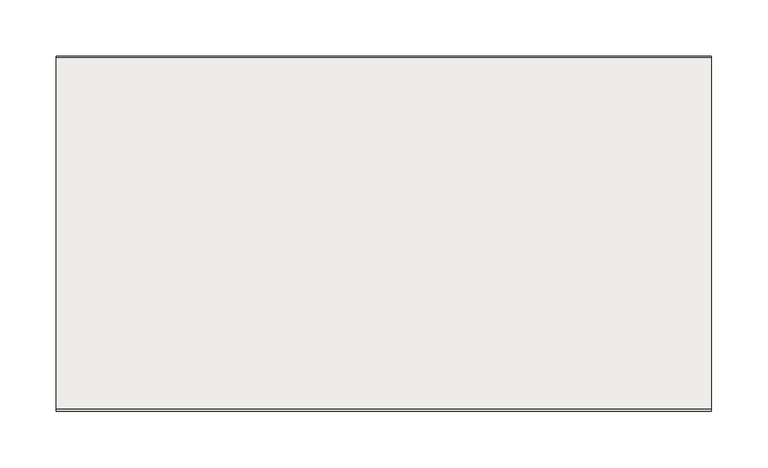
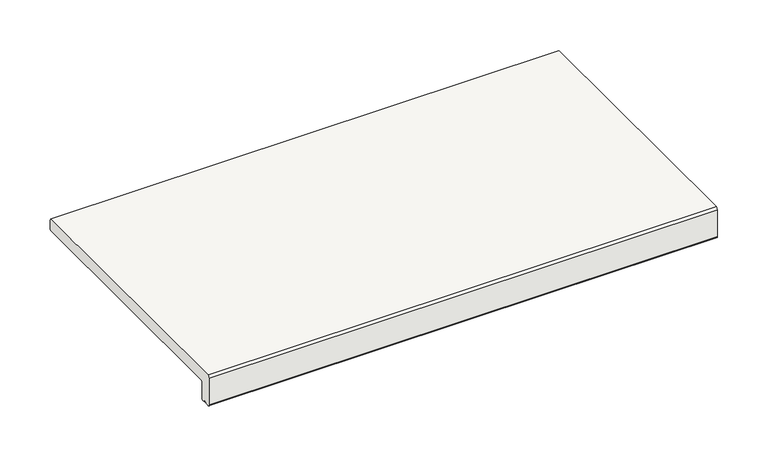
"""IFC4 building model written with IfcOpenShell, lengths in millimetres: slab geometry, ROSA GRES_L62 : Pieza L62_Mistery_Grey_Anti-Slip."""

import ifcopenshell
import ifcopenshell.guid

model = None  # the IFC model being written
_history = None  # IfcOwnerHistory: only IFC2X3 demands one
_inside = {}  # id of a spatial element -> (the spatial element, [elements in it])
_under = {}  # id of a project, library or spatial element -> (it, [spatial elements below it])
_declared = {}  # id of a project -> (the project, [libraries it declares])
_typed = {}  # id of a type object -> (the type object, [elements of that type])
_made_of = {}  # id of a material, layer set ... -> (it, [elements and type objects made of it])


def new_model(schema):
    """Start an empty IFC model of exactly this schema.

    Asked for "IFC4X3", IfcOpenShell would pick the latest addendum, in which some entities
    have other attributes; the version numbers below select the first issue.
    IFC2X3 requires an IfcOwnerHistory on every rooted entity: one is made here for all.
    """
    global model, _history
    if schema == "IFC4X3":
        model = ifcopenshell.file(schema_version=(4, 3, 0, 0))
    else:
        model = ifcopenshell.file(schema=schema)
    _inside.clear()
    _under.clear()
    _declared.clear()
    _typed.clear()
    _made_of.clear()
    _history = None
    if model.schema == "IFC2X3":
        org = make("IfcOrganization", Name="unknown")
        user = make(
            "IfcPersonAndOrganization",
            ThePerson=make("IfcPerson", FamilyName="unknown"),
            TheOrganization=org,
        )
        app = make(
            "IfcApplication",
            ApplicationDeveloper=org,
            Version="unknown",
            ApplicationFullName="unknown",
            ApplicationIdentifier="unknown",
        )
        _history = make(
            "IfcOwnerHistory",
            OwningUser=user,
            OwningApplication=app,
            ChangeAction="ADDED",
            CreationDate=0,
        )
    return model


def make(cls, **values):
    """One entity of the class cls with the attributes given. An attribute that is None is left unset."""
    return model.create_entity(
        cls, **{name: value for name, value in values.items() if value is not None}
    )


def rooted(cls, **values):
    """An entity with a GlobalId (a new one), such as an element, a storey or a relation."""
    return make(cls, GlobalId=ifcopenshell.guid.new(), OwnerHistory=_history, **values)


def si_unit(unit_type, name, prefix=None):
    """IfcSIUnit, for example si_unit("LENGTHUNIT", "METRE", prefix="MILLI")."""
    return make("IfcSIUnit", UnitType=unit_type, Prefix=prefix, Name=name)


def assignment(units):
    """IfcUnitAssignment: the units of a project."""
    return None if units is None else make("IfcUnitAssignment", Units=units)


def point(xyz):
    """IfcCartesianPoint."""
    return None if xyz is None else make("IfcCartesianPoint", Coordinates=xyz)


def direction(xyz):
    """IfcDirection."""
    return None if xyz is None else make("IfcDirection", DirectionRatios=xyz)


def frame(location, z_axis=None, x_axis=None):
    """IfcAxis2Placement3D, a coordinate frame: its origin and axes. An axis left out is left unset."""
    return make(
        "IfcAxis2Placement3D",
        Location=point(location),
        Axis=direction(z_axis),
        RefDirection=direction(x_axis),
    )


def frame_2d(location, x_axis=None):
    """IfcAxis2Placement2D, a coordinate frame in the plane: its origin and x axis."""
    return make(
        "IfcAxis2Placement2D", Location=point(location), RefDirection=direction(x_axis)
    )


def origin():
    """The frame at (0, 0, 0) with its axes left unset."""
    return frame((0.0, 0.0, 0.0))


def place(relative_to, where):
    """IfcLocalPlacement: puts the frame where relative to a parent placement (None: the world)."""
    return make(
        "IfcLocalPlacement", PlacementRelTo=relative_to, RelativePlacement=where
    )


def context(
    kind, dimensions, precision=None, world=None, true_north=None, identifier=None
):
    """IfcGeometricRepresentationContext, for example the 3D "Model" context."""
    return make(
        "IfcGeometricRepresentationContext",
        ContextIdentifier=identifier,
        ContextType=kind,
        CoordinateSpaceDimension=dimensions,
        Precision=precision,
        WorldCoordinateSystem=world,
        TrueNorth=true_north,
    )


def project(units=None, contexts=None):
    """IfcProject with its units and contexts."""
    return rooted(
        "IfcProject",
        Name="project",
        RepresentationContexts=contexts,
        UnitsInContext=assignment(units),
    )


def spatial(cls, under=None, at=None, **own):
    """A site, building, storey or space (cls), placed at a placement, below another one or the project."""
    s = rooted(cls, ObjectPlacement=at, **own)
    if under is not None:
        _under.setdefault(under.id(), (under, []))[1].append(s)
    return s


def polyline(points):
    """IfcPolyline through the points."""
    return make("IfcPolyline", Points=[point(p) for p in points])


def circle_curve(where, radius):
    """IfcCircle in the frame where."""
    return make("IfcCircle", Position=where, Radius=radius)


def trimmed(basis, trim1, trim2, sense, master):
    """IfcTrimmedCurve: the piece of a basis curve between two trims."""
    return make(
        "IfcTrimmedCurve",
        BasisCurve=basis,
        Trim1=trim1,
        Trim2=trim2,
        SenseAgreement=sense,
        MasterRepresentation=master,
    )


def segment(curve, same_sense, transition):
    """IfcCompositeCurveSegment."""
    return make(
        "IfcCompositeCurveSegment",
        Transition=transition,
        SameSense=same_sense,
        ParentCurve=curve,
    )


def composite_curve(segments, self_intersect=None):
    """IfcCompositeCurve: segments joined end to end."""
    return make("IfcCompositeCurve", Segments=segments, SelfIntersect=self_intersect)


def outline(outer, holes=None, kind="AREA"):
    """IfcArbitraryClosedProfileDef: a profile drawn as a closed curve; with holes, ...WithVoids."""
    if holes is None:
        return make("IfcArbitraryClosedProfileDef", ProfileType=kind, OuterCurve=outer)
    return make(
        "IfcArbitraryProfileDefWithVoids",
        ProfileType=kind,
        OuterCurve=outer,
        InnerCurves=holes,
    )


def extrude(swept, where, along, depth):
    """IfcExtrudedAreaSolid: the profile swept, set in the frame where, extruded along a direction by depth."""
    return make(
        "IfcExtrudedAreaSolid",
        SweptArea=swept,
        Position=where,
        ExtrudedDirection=direction(along),
        Depth=depth,
    )


def shape(context_of_items, identifier, shape_type, items):
    """IfcShapeRepresentation: the items that make up one representation, for example the "Body"."""
    return make(
        "IfcShapeRepresentation",
        ContextOfItems=context_of_items,
        RepresentationIdentifier=identifier,
        RepresentationType=shape_type,
        Items=items,
    )


def source(mapping_origin, context_of_items, identifier, shape_type, items):
    """IfcRepresentationMap: a shape defined once, which mapped items show again and again."""
    return make(
        "IfcRepresentationMap",
        MappingOrigin=mapping_origin,
        MappedRepresentation=shape(context_of_items, identifier, shape_type, items),
    )


def transform(
    local_origin,
    x_axis=None,
    y_axis=None,
    z_axis=None,
    scale=None,
    scale2=None,
    scale3=None,
    uniform=True,
):
    """IfcCartesianTransformationOperator3D, or its non-uniform kind. x_axis, y_axis, z_axis: its Axis1, 2, 3."""
    if uniform:
        return make(
            "IfcCartesianTransformationOperator3D",
            Axis1=direction(x_axis),
            Axis2=direction(y_axis),
            LocalOrigin=point(local_origin),
            Scale=scale,
            Axis3=direction(z_axis),
        )
    return make(
        "IfcCartesianTransformationOperator3DnonUniform",
        Axis1=direction(x_axis),
        Axis2=direction(y_axis),
        LocalOrigin=point(local_origin),
        Scale=scale,
        Axis3=direction(z_axis),
        Scale2=scale2,
        Scale3=scale3,
    )


def mapped(mapping_source, mapping_target):
    """IfcMappedItem: shows the shape of a source again, moved by a transform."""
    return make(
        "IfcMappedItem", MappingSource=mapping_source, MappingTarget=mapping_target
    )


def made_of(thing, what):
    """Note that an element or type object is made of a material, layer set ...; save() writes the relation."""
    if what is not None:
        _made_of.setdefault(what.id(), (what, []))[1].append(thing)
    return thing


def element(
    cls,
    number,
    at=None,
    inside=None,
    cuts=None,
    type_object=None,
    material=None,
    context=None,
    identifier="Body",
    shape_type=None,
    held_by="IfcProductDefinitionShape",
    body=None,
    shapes=None,
    **own,
):
    """One element of the class cls, such as IfcWall. Its Tag is "e" and its number.

    at: its placement. inside: the storey or other place that contains it. cuts: it is an
    opening in that element (IfcRelVoidsElement). A single representation is given by context,
    identifier, shape_type and body (its items); several are given by shapes. held_by: the class
    of the entity that holds the representations. save() writes the other relations.
    """
    e = rooted(cls, Tag="e%d" % number, ObjectPlacement=at, **own)
    if body is not None:
        shapes = [shape(context, identifier, shape_type, body)]
    if shapes is not None:
        e.Representation = make(held_by, Representations=shapes)
    if inside is not None:
        _inside.setdefault(inside.id(), (inside, []))[1].append(e)
    if cuts is not None:
        rooted(
            "IfcRelVoidsElement", RelatingBuildingElement=cuts, RelatedOpeningElement=e
        )
    if type_object is not None:
        _typed.setdefault(type_object.id(), (type_object, []))[1].append(e)
    return made_of(e, material)


def aggregate(whole, parts):
    """IfcRelAggregates: a whole, such as a stair, and the parts it consists of."""
    return rooted("IfcRelAggregates", RelatingObject=whole, RelatedObjects=parts)


def save(model, path):
    """Write the relations noted so far, then the file.

    IfcRelAggregates (storeys below a building ...), IfcRelContainedInSpatialStructure (elements
    in a storey), IfcRelDefinesByType, IfcRelAssociatesMaterial and IfcRelDeclares: one each for
    every whole, place, type object, material and project.
    """
    for whole, parts in _under.values():
        aggregate(whole, parts)
    for where, things in _inside.values():
        rooted(
            "IfcRelContainedInSpatialStructure",
            RelatedElements=things,
            RelatingStructure=where,
        )
    for kind, things in _typed.values():
        rooted("IfcRelDefinesByType", RelatedObjects=things, RelatingType=kind)
    for what, things in _made_of.values():
        rooted("IfcRelAssociatesMaterial", RelatedObjects=things, RelatingMaterial=what)
    for by, libraries in _declared.values():
        rooted("IfcRelDeclares", RelatingContext=by, RelatedDefinitions=libraries)
    model.write(path)


def slab_e95076c2(model_context):
    return source(origin(), model_context, "Body", "SweptSolid", [
        extrude(outline(composite_curve([segment(polyline([(12.1001991, -37.0), (9.4054777, -37.0)]), True, "CONTINUOUS"), segment(trimmed(circle_curve(frame_2d((7.4142134, -37.0)), 1.9912643), [point((9.4054777, -37.0))], [point((5.422949, -37.0))], True, "CARTESIAN"), True, "CONTINUOUS"), segment(polyline([(5.422949, -37.0), (2.5, -37.0)]), True, "CONTINUOUS"), segment(trimmed(circle_curve(frame_2d((2.5, -34.5)), 2.5), [point((2.5, -37.0))], [point((0.0, -34.5))], False, "CARTESIAN"), True, "CONTINUOUS"), segment(polyline([(0.0, -34.5), (0.0, -2.5), (2.5, 0.0), (315.5, 0.0), (317.0, -2.5), (317.0, -12.4648352)]), True, "CONTINUOUS"), segment(trimmed(circle_curve(frame_2d((315.5234432, -12.4648352)), 1.4765568), [point((317.0, -12.4648352))], [point((315.5234432, -13.9413919))], False, "CARTESIAN"), True, "CONTINUOUS"), segment(polyline([(315.5234432, -13.9413919), (16.6422322, -13.9413919)]), True, "CONTINUOUS"), segment(trimmed(circle_curve(frame_2d((16.6422322, -16.5836242)), 2.6422322), [point((16.6422322, -13.9413919))], [point((14.0, -16.5836242))], True, "CARTESIAN"), True, "CONTINUOUS"), segment(polyline([(14.0, -16.5836242), (14.0, -35.1001991)]), True, "CONTINUOUS"), segment(trimmed(circle_curve(frame_2d((12.1001991, -35.1001991)), 1.8998009), [point((14.0, -35.1001991))], [point((12.1001991, -37.0))], False, "CARTESIAN"), True, "CONTINUOUS")], self_intersect=False)), frame((0.0, 0.0, 0.0), z_axis=(1.0, 0.0, 0.0), x_axis=(0.0, 1.0, 0.0)), (0.0, 0.0, 1.0), 585.0),
    ])


if __name__ == "__main__":
    model = new_model("IFC4")
    model_context = context("Model", 3, world=origin())
    ifc_project = project(units=[si_unit("LENGTHUNIT", "METRE", prefix="MILLI")], contexts=[model_context])
    site = spatial("IfcSite", under=ifc_project)
    building = spatial("IfcBuilding", under=site)
    placement = place(None, origin())
    slab_shape = slab_e95076c2(model_context)
    element("IfcSlab", 1, ObjectType="ROSA GRES_L62 : Pieza L62_Mistery_Grey_Anti-Slip", at=placement, inside=building, context=model_context, shape_type="MappedRepresentation", body=[
        mapped(slab_shape, transform((0.0, 0.0, 0.0), x_axis=(1.0, 0.0, 0.0), y_axis=(0.0, 1.0, 0.0), z_axis=(0.0, 0.0, 1.0))),
    ])
    save(model, "model.ifc")
